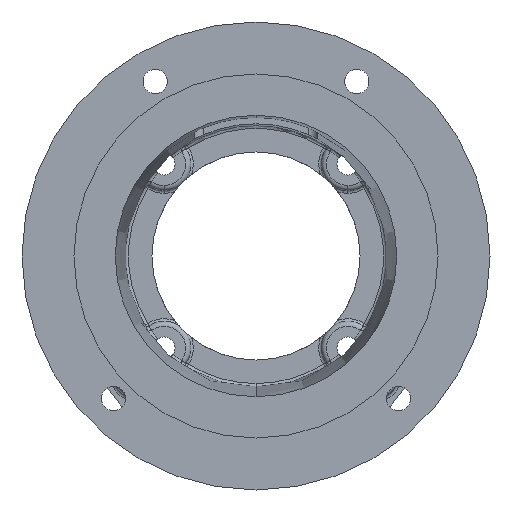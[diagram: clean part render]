
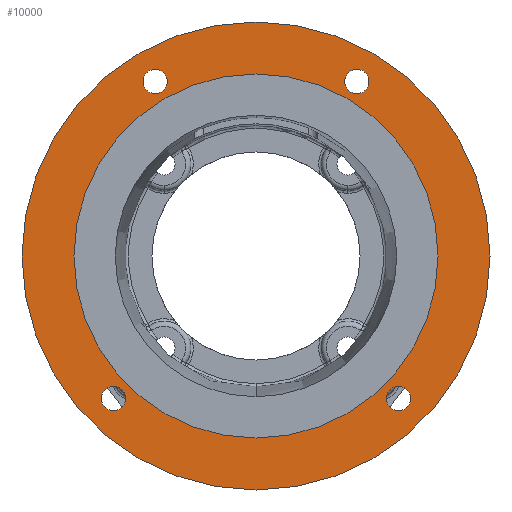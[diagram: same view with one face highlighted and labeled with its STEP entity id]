
A CAD part, front view. The second image highlights one B-rep face of the part: STEP entity #10000.
In plain terms, the highlighted planar face has unit normal (0, -1, 0).
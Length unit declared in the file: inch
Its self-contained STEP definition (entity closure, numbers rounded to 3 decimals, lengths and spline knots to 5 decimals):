
#49 = EDGE_LOOP ( 'NONE', ( #524, #1175 ) ) ;
#135 = CARTESIAN_POINT ( 'NONE',  ( -2.74004, 0., -2.74004 ) ) ;
#138 = DIRECTION ( 'NONE',  ( 0., -1., 0. ) ) ;
#151 = DIRECTION ( 'NONE',  ( 0., 0., -1. ) ) ;
#174 = DIRECTION ( 'NONE',  ( 0., -1., 0. ) ) ;
#191 = CARTESIAN_POINT ( 'NONE',  ( -2.74004, 0., -2.97441 ) ) ;
#256 = CARTESIAN_POINT ( 'NONE',  ( -1.9375, 0., 3.12147 ) ) ;
#468 = CARTESIAN_POINT ( 'NONE',  ( -1.9375, 0., 3.59022 ) ) ;
#524 = ORIENTED_EDGE ( 'NONE', *, *, #10277, .F. ) ;
#621 = VERTEX_POINT ( 'NONE', #11780 ) ;
#706 = CARTESIAN_POINT ( 'NONE',  ( 0., 0., 0. ) ) ;
#716 = CIRCLE ( 'NONE', #2545, 4.5 ) ;
#829 = CIRCLE ( 'NONE', #11349, 0.23438 ) ;
#836 = EDGE_LOOP ( 'NONE', ( #3211, #10774 ) ) ;
#1068 = PLANE ( 'NONE',  #5890 ) ;
#1123 = EDGE_CURVE ( 'NONE', #4641, #9084, #4234, .T. ) ;
#1165 = ORIENTED_EDGE ( 'NONE', *, *, #4426, .F. ) ;
#1175 = ORIENTED_EDGE ( 'NONE', *, *, #2034, .F. ) ;
#1244 = EDGE_CURVE ( 'NONE', #7233, #621, #716, .T. ) ;
#1489 = CIRCLE ( 'NONE', #3620, 0.23438 ) ;
#1491 = VERTEX_POINT ( 'NONE', #4987 ) ;
#1568 = EDGE_CURVE ( 'NONE', #2057, #9280, #1489, .T. ) ;
#1612 = CIRCLE ( 'NONE', #9370, 4.5 ) ;
#1678 = FACE_BOUND ( 'NONE', #836, .T. ) ;
#1700 = DIRECTION ( 'NONE',  ( 0., 0., -1. ) ) ;
#2034 = EDGE_CURVE ( 'NONE', #8007, #5264, #3609, .T. ) ;
#2057 = VERTEX_POINT ( 'NONE', #256 ) ;
#2499 = CIRCLE ( 'NONE', #3074, 0.23438 ) ;
#2545 = AXIS2_PLACEMENT_3D ( 'NONE', #5986, #5995, #5998 ) ;
#2670 = CARTESIAN_POINT ( 'NONE',  ( -1.9375, 0., 3.35585 ) ) ;
#2701 = DIRECTION ( 'NONE',  ( 0., -1., 0. ) ) ;
#2718 = DIRECTION ( 'NONE',  ( 0., 0., -1. ) ) ;
#2821 = EDGE_LOOP ( 'NONE', ( #1165, #6156 ) ) ;
#3038 = EDGE_CURVE ( 'NONE', #621, #7233, #1612, .T. ) ;
#3074 = AXIS2_PLACEMENT_3D ( 'NONE', #8139, #8100, #8055 ) ;
#3206 = CARTESIAN_POINT ( 'NONE',  ( 1.9375, 0., 3.12147 ) ) ;
#3211 = ORIENTED_EDGE ( 'NONE', *, *, #1568, .F. ) ;
#3556 = CARTESIAN_POINT ( 'NONE',  ( 2.74004, 0., -2.50566 ) ) ;
#3609 = CIRCLE ( 'NONE', #12192, 0.23438 ) ;
#3620 = AXIS2_PLACEMENT_3D ( 'NONE', #2670, #2701, #2718 ) ;
#3629 = DIRECTION ( 'NONE',  ( 0., 0., -1. ) ) ;
#3662 = DIRECTION ( 'NONE',  ( 0., -1., 0. ) ) ;
#3666 = CARTESIAN_POINT ( 'NONE',  ( 2.74004, 0., -2.97441 ) ) ;
#3675 = CARTESIAN_POINT ( 'NONE',  ( 0., 0., 0. ) ) ;
#3698 = ORIENTED_EDGE ( 'NONE', *, *, #4146, .F. ) ;
#4146 = EDGE_CURVE ( 'NONE', #7634, #7875, #4625, .T. ) ;
#4234 = CIRCLE ( 'NONE', #9114, 0.23438 ) ;
#4291 = AXIS2_PLACEMENT_3D ( 'NONE', #6573, #8408, #4408 ) ;
#4397 = AXIS2_PLACEMENT_3D ( 'NONE', #10305, #4731, #11271 ) ;
#4408 = DIRECTION ( 'NONE',  ( 0., 0., -1. ) ) ;
#4426 = EDGE_CURVE ( 'NONE', #9084, #4641, #829, .T. ) ;
#4536 = EDGE_CURVE ( 'NONE', #9280, #2057, #2499, .T. ) ;
#4625 = CIRCLE ( 'NONE', #9679, 0.23438 ) ;
#4641 = VERTEX_POINT ( 'NONE', #3556 ) ;
#4731 = DIRECTION ( 'NONE',  ( 0., -1., 0. ) ) ;
#4886 = EDGE_CURVE ( 'NONE', #1491, #6980, #5200, .T. ) ;
#4925 = CARTESIAN_POINT ( 'NONE',  ( 0., 0., -3.501 ) ) ;
#4987 = CARTESIAN_POINT ( 'NONE',  ( 0., 0., 3.501 ) ) ;
#4994 = DIRECTION ( 'NONE',  ( 0., 0., 1. ) ) ;
#5075 = EDGE_LOOP ( 'NONE', ( #11570, #9632 ) ) ;
#5200 = CIRCLE ( 'NONE', #4291, 3.501 ) ;
#5264 = VERTEX_POINT ( 'NONE', #191 ) ;
#5432 = CARTESIAN_POINT ( 'NONE',  ( 0., 0., -4.5 ) ) ;
#5617 = CIRCLE ( 'NONE', #7261, 3.501 ) ;
#5624 = ORIENTED_EDGE ( 'NONE', *, *, #8188, .F. ) ;
#5890 = AXIS2_PLACEMENT_3D ( 'NONE', #9627, #10582, #4994 ) ;
#5950 = CARTESIAN_POINT ( 'NONE',  ( -2.74004, 0., -2.74004 ) ) ;
#5986 = CARTESIAN_POINT ( 'NONE',  ( 0., 0., 0. ) ) ;
#5995 = DIRECTION ( 'NONE',  ( 0., -1., 0. ) ) ;
#5998 = DIRECTION ( 'NONE',  ( 0., 0., -1. ) ) ;
#6098 = DIRECTION ( 'NONE',  ( 0., 0., -1. ) ) ;
#6155 = ORIENTED_EDGE ( 'NONE', *, *, #6538, .F. ) ;
#6156 = ORIENTED_EDGE ( 'NONE', *, *, #1123, .F. ) ;
#6305 = AXIS2_PLACEMENT_3D ( 'NONE', #5950, #174, #6896 ) ;
#6469 = FACE_OUTER_BOUND ( 'NONE', #5075, .T. ) ;
#6538 = EDGE_CURVE ( 'NONE', #6980, #1491, #5617, .T. ) ;
#6573 = CARTESIAN_POINT ( 'NONE',  ( 0., 0., 0. ) ) ;
#6751 = FACE_BOUND ( 'NONE', #6825, .T. ) ;
#6825 = EDGE_LOOP ( 'NONE', ( #5624, #3698 ) ) ;
#6896 = DIRECTION ( 'NONE',  ( 0., 0., -1. ) ) ;
#6980 = VERTEX_POINT ( 'NONE', #4925 ) ;
#7121 = CARTESIAN_POINT ( 'NONE',  ( 2.74004, 0., -2.74004 ) ) ;
#7137 = DIRECTION ( 'NONE',  ( 0., -1., 0. ) ) ;
#7182 = DIRECTION ( 'NONE',  ( 0., 0., -1. ) ) ;
#7233 = VERTEX_POINT ( 'NONE', #5432 ) ;
#7261 = AXIS2_PLACEMENT_3D ( 'NONE', #706, #7382, #1700 ) ;
#7382 = DIRECTION ( 'NONE',  ( 0., -1., 0. ) ) ;
#7634 = VERTEX_POINT ( 'NONE', #10873 ) ;
#7699 = EDGE_LOOP ( 'NONE', ( #6155, #11523 ) ) ;
#7875 = VERTEX_POINT ( 'NONE', #3206 ) ;
#8007 = VERTEX_POINT ( 'NONE', #11964 ) ;
#8055 = DIRECTION ( 'NONE',  ( 0., 0., -1. ) ) ;
#8100 = DIRECTION ( 'NONE',  ( 0., -1., 0. ) ) ;
#8139 = CARTESIAN_POINT ( 'NONE',  ( -1.9375, 0., 3.35585 ) ) ;
#8188 = EDGE_CURVE ( 'NONE', #7875, #7634, #10999, .T. ) ;
#8205 = DIRECTION ( 'NONE',  ( 0., -1., 0. ) ) ;
#8279 = CARTESIAN_POINT ( 'NONE',  ( 1.9375, 0., 3.35585 ) ) ;
#8408 = DIRECTION ( 'NONE',  ( 0., -1., 0. ) ) ;
#8426 = CARTESIAN_POINT ( 'NONE',  ( 2.74004, 0., -2.74004 ) ) ;
#8941 = FACE_BOUND ( 'NONE', #7699, .T. ) ;
#9084 = VERTEX_POINT ( 'NONE', #3666 ) ;
#9114 = AXIS2_PLACEMENT_3D ( 'NONE', #7121, #7137, #7182 ) ;
#9280 = VERTEX_POINT ( 'NONE', #468 ) ;
#9370 = AXIS2_PLACEMENT_3D ( 'NONE', #3675, #3662, #3629 ) ;
#9392 = DIRECTION ( 'NONE',  ( 0., 0., -1. ) ) ;
#9627 = CARTESIAN_POINT ( 'NONE',  ( -4.5, 0., 0. ) ) ;
#9632 = ORIENTED_EDGE ( 'NONE', *, *, #3038, .T. ) ;
#9679 = AXIS2_PLACEMENT_3D ( 'NONE', #8279, #8205, #6098 ) ;
#9910 = DIRECTION ( 'NONE',  ( 0., -1., 0. ) ) ;
#10000 = ADVANCED_FACE ( 'NONE', ( #1678, #6751, #11723, #11433, #8941, #6469 ), #1068, .F. ) ;
#10277 = EDGE_CURVE ( 'NONE', #5264, #8007, #11872, .T. ) ;
#10305 = CARTESIAN_POINT ( 'NONE',  ( 1.9375, 0., 3.35585 ) ) ;
#10582 = DIRECTION ( 'NONE',  ( 0., 1., 0. ) ) ;
#10774 = ORIENTED_EDGE ( 'NONE', *, *, #4536, .F. ) ;
#10873 = CARTESIAN_POINT ( 'NONE',  ( 1.9375, 0., 3.59022 ) ) ;
#10999 = CIRCLE ( 'NONE', #4397, 0.23438 ) ;
#11271 = DIRECTION ( 'NONE',  ( 0., 0., -1. ) ) ;
#11349 = AXIS2_PLACEMENT_3D ( 'NONE', #8426, #9910, #9392 ) ;
#11433 = FACE_BOUND ( 'NONE', #49, .T. ) ;
#11523 = ORIENTED_EDGE ( 'NONE', *, *, #4886, .F. ) ;
#11570 = ORIENTED_EDGE ( 'NONE', *, *, #1244, .T. ) ;
#11723 = FACE_BOUND ( 'NONE', #2821, .T. ) ;
#11780 = CARTESIAN_POINT ( 'NONE',  ( 0., 0., 4.5 ) ) ;
#11872 = CIRCLE ( 'NONE', #6305, 0.23438 ) ;
#11964 = CARTESIAN_POINT ( 'NONE',  ( -2.74004, 0., -2.50566 ) ) ;
#12192 = AXIS2_PLACEMENT_3D ( 'NONE', #135, #138, #151 ) ;
